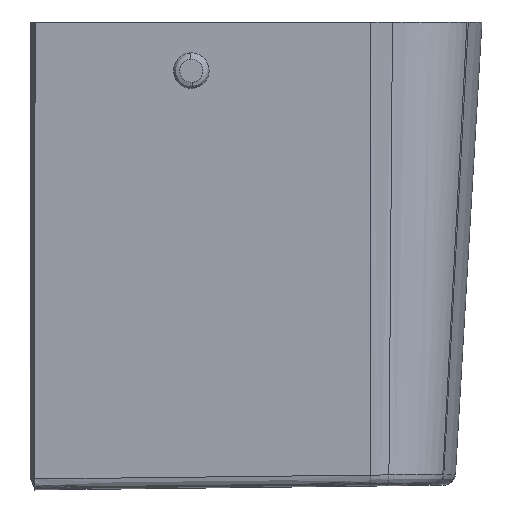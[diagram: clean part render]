
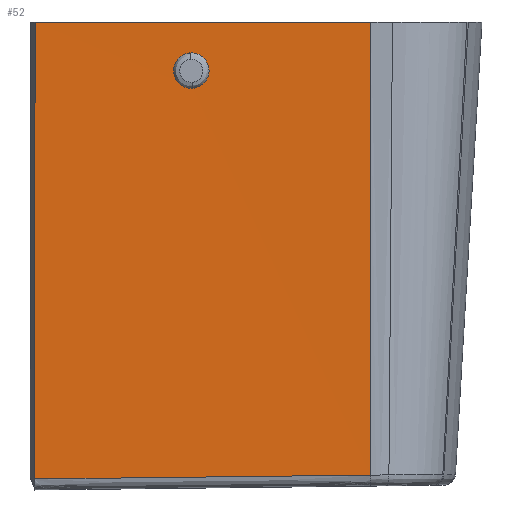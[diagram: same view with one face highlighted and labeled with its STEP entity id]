
A CAD part, left-side view. The second image highlights one B-rep face of the part: STEP entity #52.
In plain terms, the highlighted free-form (B-spline) face has degree [1, 5] with [2, 6] control points.
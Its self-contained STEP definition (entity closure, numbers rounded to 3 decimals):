
#24=FACE_BOUND('',#198,.T.);
#52=ADVANCED_FACE('',(#123,#24),#1044,.T.);
#123=FACE_OUTER_BOUND('',#197,.T.);
#197=EDGE_LOOP('',(#386,#387,#388,#389));
#198=EDGE_LOOP('',(#390,#391));
#386=ORIENTED_EDGE('',*,*,#651,.F.);
#387=ORIENTED_EDGE('',*,*,#605,.F.);
#388=ORIENTED_EDGE('',*,*,#650,.T.);
#389=ORIENTED_EDGE('',*,*,#674,.F.);
#390=ORIENTED_EDGE('',*,*,#707,.F.);
#391=ORIENTED_EDGE('',*,*,#704,.F.);
#605=EDGE_CURVE('',#937,#938,#801,.T.);
#650=EDGE_CURVE('',#937,#972,#843,.T.);
#651=EDGE_CURVE('',#938,#973,#844,.T.);
#674=EDGE_CURVE('',#973,#972,#867,.T.);
#704=EDGE_CURVE('',#975,#974,#897,.T.);
#707=EDGE_CURVE('',#974,#975,#900,.T.);
#801=B_SPLINE_CURVE_WITH_KNOTS('',1,(#4112,#4113),.UNSPECIFIED.,.F.,.F.,
(2,2),(0.,208.052),.UNSPECIFIED.);
#843=B_SPLINE_CURVE_WITH_KNOTS('',5,(#4461,#4462,#4463,#4464,#4465,#4466,
#4467,#4468,#4469),.UNSPECIFIED.,.F.,.F.,(6,3,6),(82.052,227.204,
365.293),.UNSPECIFIED.);
#844=B_SPLINE_CURVE_WITH_KNOTS('',1,(#4470,#4471),.UNSPECIFIED.,.F.,.F.,
(2,2),(-290.099,-9.282),.UNSPECIFIED.);
#867=B_SPLINE_CURVE_WITH_KNOTS('',4,(#4611,#4612,#4613,#4614,#4615),
 .UNSPECIFIED.,.F.,.F.,(5,5),(-104.033,104.033),
 .UNSPECIFIED.);
#897=B_SPLINE_CURVE_WITH_KNOTS('',3,(#4916,#4917,#4918,#4919,#4920,#4921,
#4922,#4923,#4924,#4925,#4926,#4927,#4928,#4929,#4930,#4931,#4932,#4933),
 .UNSPECIFIED.,.F.,.F.,(4,2,2,2,2,2,2,2,4),(-44.437,-38.896,
-33.354,-27.811,-22.264,-16.676,
-11.086,-5.539,0.),.UNSPECIFIED.);
#900=B_SPLINE_CURVE_WITH_KNOTS('',3,(#4954,#4955,#4956,#4957,#4958,#4959,
#4960,#4961,#4962,#4963,#4964,#4965,#4966,#4967,#4968,#4969,#4970,#4971),
 .UNSPECIFIED.,.F.,.F.,(4,2,2,2,2,2,2,2,4),(-44.437,-38.892,
-33.347,-27.782,-22.225,-16.647,
-11.062,-5.529,0.),.UNSPECIFIED.);
#937=VERTEX_POINT('',#3839);
#938=VERTEX_POINT('',#3840);
#972=VERTEX_POINT('',#3874);
#973=VERTEX_POINT('',#3875);
#974=VERTEX_POINT('',#3876);
#975=VERTEX_POINT('',#3877);
#1044=B_SPLINE_SURFACE_WITH_KNOTS('',1,5,((#1885,#1886,#1887,#1888,#1889,
#1890),(#1891,#1892,#1893,#1894,#1895,#1896)),.UNSPECIFIED.,.F.,.F.,.F.,
(2,2),(6,6),(0.,290.099),(0.,211.052),.UNSPECIFIED.);
#1885=CARTESIAN_POINT('',(-76.214,-71.036,-290.));
#1886=CARTESIAN_POINT('',(-76.714,-28.829,-290.));
#1887=CARTESIAN_POINT('',(-77.214,13.379,-290.));
#1888=CARTESIAN_POINT('',(-77.714,55.586,-290.));
#1889=CARTESIAN_POINT('',(-78.214,97.794,-290.));
#1890=CARTESIAN_POINT('',(-78.714,140.001,-290.));
#1891=CARTESIAN_POINT('',(-83.863,-71.127,0.));
#1892=CARTESIAN_POINT('',(-84.333,-28.919,0.));
#1893=CARTESIAN_POINT('',(-84.803,13.289,0.));
#1894=CARTESIAN_POINT('',(-85.273,55.497,0.));
#1895=CARTESIAN_POINT('',(-85.743,97.705,0.));
#1896=CARTESIAN_POINT('',(-86.213,139.912,0.));
#3839=CARTESIAN_POINT('',(-86.179,136.913,0.));
#3840=CARTESIAN_POINT('',(-83.863,-71.127,0.));
#3874=CARTESIAN_POINT('',(-78.855,136.999,-283.146));
#3875=CARTESIAN_POINT('',(-76.458,-71.039,-280.721));
#3876=CARTESIAN_POINT('',(-84.429,50.001,-30.));
#3877=CARTESIAN_POINT('',(-84.205,30.001,-30.));
#4112=CARTESIAN_POINT('',(-86.179,136.913,0.));
#4113=CARTESIAN_POINT('',(-83.863,-71.127,0.));
#4461=CARTESIAN_POINT('',(-86.179,136.913,0.));
#4462=CARTESIAN_POINT('',(-85.429,136.921,-29.021));
#4463=CARTESIAN_POINT('',(-84.678,136.93,-58.041));
#4464=CARTESIAN_POINT('',(-83.927,136.939,-87.062));
#4465=CARTESIAN_POINT('',(-82.463,136.957,-143.691));
#4466=CARTESIAN_POINT('',(-80.998,136.974,-200.321));
#4467=CARTESIAN_POINT('',(-80.284,136.982,-227.929));
#4468=CARTESIAN_POINT('',(-79.57,136.991,-255.538));
#4469=CARTESIAN_POINT('',(-78.855,136.999,-283.146));
#4470=CARTESIAN_POINT('',(-83.863,-71.127,0.));
#4471=CARTESIAN_POINT('',(-76.458,-71.039,-280.721));
#4611=CARTESIAN_POINT('',(-76.458,-71.039,-280.721));
#4612=CARTESIAN_POINT('',(-77.057,-19.029,-281.327));
#4613=CARTESIAN_POINT('',(-77.657,32.98,-281.934));
#4614=CARTESIAN_POINT('',(-78.256,84.99,-282.54));
#4615=CARTESIAN_POINT('',(-78.855,136.999,-283.146));
#4916=CARTESIAN_POINT('',(-84.205,30.001,-30.));
#4917=CARTESIAN_POINT('',(-84.239,30.001,-28.708));
#4918=CARTESIAN_POINT('',(-84.275,30.254,-27.424));
#4919=CARTESIAN_POINT('',(-84.348,31.221,-25.045));
#4920=CARTESIAN_POINT('',(-84.385,31.935,-23.95));
#4921=CARTESIAN_POINT('',(-84.453,33.736,-22.1));
#4922=CARTESIAN_POINT('',(-84.485,34.82,-21.347));
#4923=CARTESIAN_POINT('',(-84.539,37.221,-20.305));
#4924=CARTESIAN_POINT('',(-84.561,38.53,-20.02));
#4925=CARTESIAN_POINT('',(-84.592,41.196,-19.982));
#4926=CARTESIAN_POINT('',(-84.6,42.529,-20.234));
#4927=CARTESIAN_POINT('',(-84.602,44.991,-21.232));
#4928=CARTESIAN_POINT('',(-84.595,46.122,-21.979));
#4929=CARTESIAN_POINT('',(-84.567,48.011,-23.867));
#4930=CARTESIAN_POINT('',(-84.546,48.752,-24.985));
#4931=CARTESIAN_POINT('',(-84.494,49.748,-27.409));
#4932=CARTESIAN_POINT('',(-84.463,50.001,-28.708));
#4933=CARTESIAN_POINT('',(-84.429,50.001,-30.));
#4954=CARTESIAN_POINT('',(-84.429,50.001,-30.));
#4955=CARTESIAN_POINT('',(-84.396,50.001,-31.292));
#4956=CARTESIAN_POINT('',(-84.359,49.749,-32.576));
#4957=CARTESIAN_POINT('',(-84.286,48.782,-34.955));
#4958=CARTESIAN_POINT('',(-84.25,48.067,-36.051));
#4959=CARTESIAN_POINT('',(-84.181,46.263,-37.903));
#4960=CARTESIAN_POINT('',(-84.149,45.177,-38.655));
#4961=CARTESIAN_POINT('',(-84.095,42.784,-39.693));
#4962=CARTESIAN_POINT('',(-84.073,41.476,-39.98));
#4963=CARTESIAN_POINT('',(-84.042,38.806,-40.018));
#4964=CARTESIAN_POINT('',(-84.034,37.473,-39.766));
#4965=CARTESIAN_POINT('',(-84.032,35.011,-38.767));
#4966=CARTESIAN_POINT('',(-84.039,33.879,-38.02));
#4967=CARTESIAN_POINT('',(-84.067,31.99,-36.131));
#4968=CARTESIAN_POINT('',(-84.088,31.25,-35.014));
#4969=CARTESIAN_POINT('',(-84.14,30.254,-32.591));
#4970=CARTESIAN_POINT('',(-84.171,30.001,-31.292));
#4971=CARTESIAN_POINT('',(-84.205,30.001,-30.));
